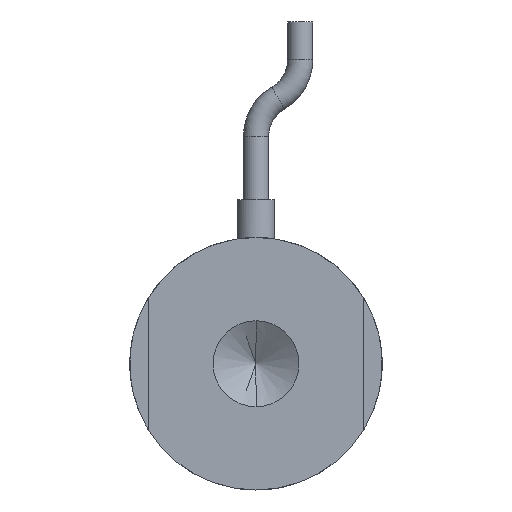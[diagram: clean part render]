
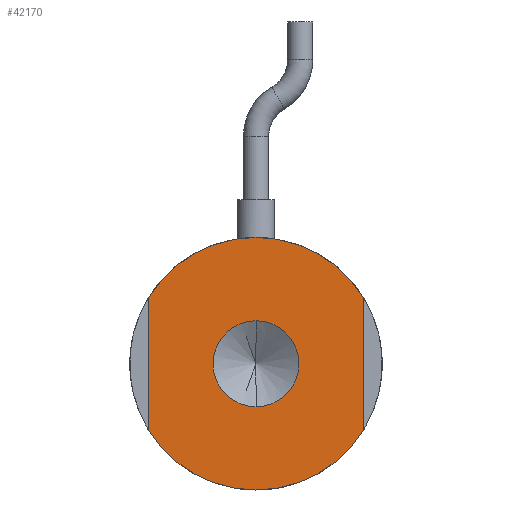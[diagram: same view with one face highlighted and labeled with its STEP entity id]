
A CAD part, front view. The second image highlights one B-rep face of the part: STEP entity #42170.
In plain terms, the highlighted planar face has unit normal (0, -1, 0) by its records, which use the part's own axes.
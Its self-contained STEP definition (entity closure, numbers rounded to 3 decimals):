
#526 = CIRCLE ( 'NONE', #1168, 10. ) ;
#688 = CARTESIAN_POINT ( 'NONE',  ( 0., 0., 0. ) ) ;
#1168 = AXIS2_PLACEMENT_3D ( 'NONE', #24221, #3084, #27706 ) ;
#1531 = DIRECTION ( 'NONE',  ( 0., 0., 1. ) ) ;
#2046 = DIRECTION ( 'NONE',  ( 0., 0., 1. ) ) ;
#3084 = DIRECTION ( 'NONE',  ( 0., 1., 0. ) ) ;
#3697 = DIRECTION ( 'NONE',  ( 0., -1., 0. ) ) ;
#4348 = DIRECTION ( 'NONE',  ( 0., 0., 1. ) ) ;
#4380 = ORIENTED_EDGE ( 'NONE', *, *, #35752, .F. ) ;
#4383 = DIRECTION ( 'NONE',  ( 0., -1., 0. ) ) ;
#4482 = CARTESIAN_POINT ( 'NONE',  ( 0., 0., 0. ) ) ;
#4792 = EDGE_CURVE ( 'NONE', #26748, #33284, #6911, .T. ) ;
#5875 = CARTESIAN_POINT ( 'NONE',  ( 8.5, 0., 0. ) ) ;
#6911 = CIRCLE ( 'NONE', #35620, 3.4 ) ;
#7397 = ORIENTED_EDGE ( 'NONE', *, *, #24810, .F. ) ;
#8114 = DIRECTION ( 'NONE',  ( 0., 0., 1. ) ) ;
#8626 = FACE_OUTER_BOUND ( 'NONE', #15779, .T. ) ;
#9767 = FACE_BOUND ( 'NONE', #26124, .T. ) ;
#10049 = VERTEX_POINT ( 'NONE', #29089 ) ;
#10265 = AXIS2_PLACEMENT_3D ( 'NONE', #688, #25404, #4348 ) ;
#11176 = EDGE_CURVE ( 'NONE', #15495, #10049, #33099, .T. ) ;
#13437 = EDGE_CURVE ( 'NONE', #27307, #15495, #526, .T. ) ;
#13708 = LINE ( 'NONE', #43659, #33317 ) ;
#14160 = ORIENTED_EDGE ( 'NONE', *, *, #39570, .F. ) ;
#14593 = VECTOR ( 'NONE', #26889, 1000. ) ;
#15495 = VERTEX_POINT ( 'NONE', #41982 ) ;
#15779 = EDGE_LOOP ( 'NONE', ( #14160, #25125, #7397, #34968, #25110, #4380 ) ) ;
#16684 = CARTESIAN_POINT ( 'NONE',  ( 0., 0., 0. ) ) ;
#18519 = AXIS2_PLACEMENT_3D ( 'NONE', #16684, #41107, #20137 ) ;
#20137 = DIRECTION ( 'NONE',  ( 0., 0., 1. ) ) ;
#21548 = CARTESIAN_POINT ( 'NONE',  ( -8.5, 0., 5.268 ) ) ;
#21761 = VERTEX_POINT ( 'NONE', #21548 ) ;
#22811 = VERTEX_POINT ( 'NONE', #39817 ) ;
#22924 = PLANE ( 'NONE',  #42490 ) ;
#23228 = DIRECTION ( 'NONE',  ( 0., 1., 0. ) ) ;
#24221 = CARTESIAN_POINT ( 'NONE',  ( 0., 0., 0. ) ) ;
#24782 = CARTESIAN_POINT ( 'NONE',  ( 0., 0., 0. ) ) ;
#24810 = EDGE_CURVE ( 'NONE', #10049, #22811, #41900, .T. ) ;
#25110 = ORIENTED_EDGE ( 'NONE', *, *, #13437, .F. ) ;
#25125 = ORIENTED_EDGE ( 'NONE', *, *, #27535, .F. ) ;
#25404 = DIRECTION ( 'NONE',  ( 0., 1., 0. ) ) ;
#25436 = CARTESIAN_POINT ( 'NONE',  ( 0., 0., 0. ) ) ;
#25693 = CIRCLE ( 'NONE', #33288, 10. ) ;
#26124 = EDGE_LOOP ( 'NONE', ( #41809, #33057 ) ) ;
#26748 = VERTEX_POINT ( 'NONE', #38623 ) ;
#26889 = DIRECTION ( 'NONE',  ( 0., 0., -1. ) ) ;
#27307 = VERTEX_POINT ( 'NONE', #34993 ) ;
#27535 = EDGE_CURVE ( 'NONE', #22811, #31981, #27582, .T. ) ;
#27582 = CIRCLE ( 'NONE', #18519, 10. ) ;
#27706 = DIRECTION ( 'NONE',  ( 0., 0., 1. ) ) ;
#28293 = DIRECTION ( 'NONE',  ( 0., 0., -1. ) ) ;
#28948 = DIRECTION ( 'NONE',  ( 0., 0., -1. ) ) ;
#29040 = DIRECTION ( 'NONE',  ( 0., 1., 0. ) ) ;
#29089 = CARTESIAN_POINT ( 'NONE',  ( 8.5, 0., -5.268 ) ) ;
#30314 = AXIS2_PLACEMENT_3D ( 'NONE', #24782, #3697, #28293 ) ;
#31981 = VERTEX_POINT ( 'NONE', #41157 ) ;
#33057 = ORIENTED_EDGE ( 'NONE', *, *, #34647, .F. ) ;
#33099 = LINE ( 'NONE', #5875, #14593 ) ;
#33284 = VERTEX_POINT ( 'NONE', #35494 ) ;
#33288 = AXIS2_PLACEMENT_3D ( 'NONE', #4482, #29040, #8114 ) ;
#33317 = VECTOR ( 'NONE', #1531, 1000. ) ;
#34647 = EDGE_CURVE ( 'NONE', #33284, #26748, #36196, .T. ) ;
#34968 = ORIENTED_EDGE ( 'NONE', *, *, #11176, .F. ) ;
#34993 = CARTESIAN_POINT ( 'NONE',  ( 0., 0., 10. ) ) ;
#35494 = CARTESIAN_POINT ( 'NONE',  ( 0., 0., 3.4 ) ) ;
#35620 = AXIS2_PLACEMENT_3D ( 'NONE', #25436, #4383, #28948 ) ;
#35752 = EDGE_CURVE ( 'NONE', #21761, #27307, #25693, .T. ) ;
#36196 = CIRCLE ( 'NONE', #30314, 3.4 ) ;
#38623 = CARTESIAN_POINT ( 'NONE',  ( 0., 0., -3.4 ) ) ;
#39570 = EDGE_CURVE ( 'NONE', #31981, #21761, #13708, .T. ) ;
#39817 = CARTESIAN_POINT ( 'NONE',  ( 0., 0., -10. ) ) ;
#40680 = CARTESIAN_POINT ( 'NONE',  ( 0., 0., 0. ) ) ;
#41107 = DIRECTION ( 'NONE',  ( 0., 1., 0. ) ) ;
#41157 = CARTESIAN_POINT ( 'NONE',  ( -8.5, 0., -5.268 ) ) ;
#41809 = ORIENTED_EDGE ( 'NONE', *, *, #4792, .F. ) ;
#41900 = CIRCLE ( 'NONE', #10265, 10. ) ;
#41982 = CARTESIAN_POINT ( 'NONE',  ( 8.5, 0., 5.268 ) ) ;
#42170 = ADVANCED_FACE ( 'NONE', ( #9767, #8626 ), #22924, .F. ) ;
#42490 = AXIS2_PLACEMENT_3D ( 'NONE', #40680, #23228, #2046 ) ;
#43659 = CARTESIAN_POINT ( 'NONE',  ( -8.5, 0., 0. ) ) ;
